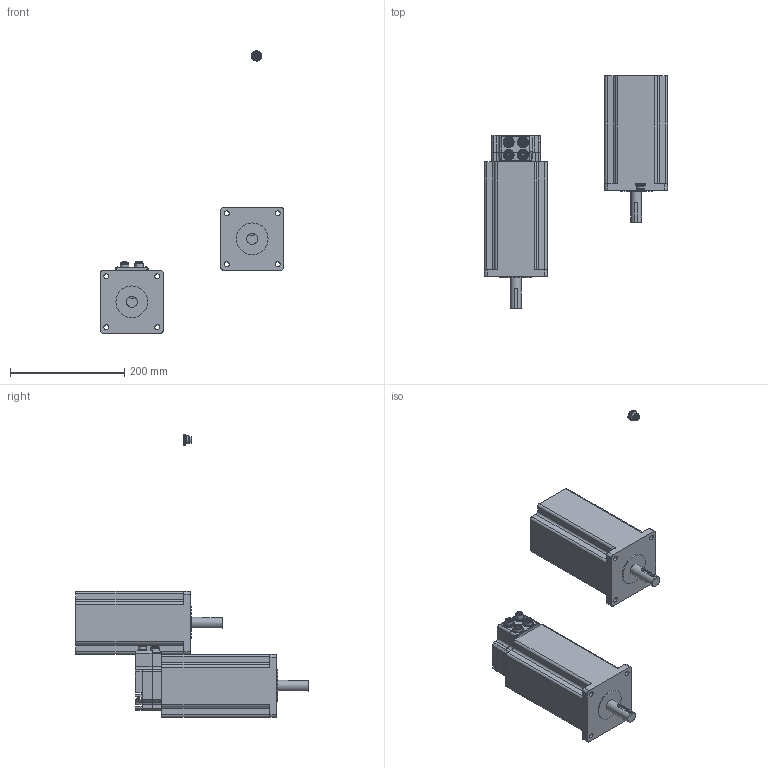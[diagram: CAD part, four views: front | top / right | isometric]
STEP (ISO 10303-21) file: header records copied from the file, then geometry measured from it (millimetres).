
FILE_DESCRIPTION( ( 'Unknown' ), '1' );
FILE_NAME( 'K:/JVL/MISxx/MIS43x/CAD drawings/Original/MIS432C22Q5H285.stp', 'Unknown', ( 'Unknown' ), ( 'Unknown' ), 'PSStep 11.0', 'Unknown', ' ' );
FILE_SCHEMA( ( 'AUTOMOTIVE_DESIGN { 1 0 10303 214 1 1 1 1 }' ) );
Length unit declared in the file: millimetre
Products named in the file (8): MIS34 house; Assem1; MM3831; MM3830; PWR 5 pin male; IO RS485 17 pin female; Ethernet 4 pin female; MIS432
Bounding box: 320.53 x 407.12 x 494.08 mm (x, y, z)
Volume: 5364857.6 mm3; surface area: 438569.4 mm2
Topology: 19 solids, 22 shells, 3032 faces, 7246 edges, 4442 vertices
Faces by surface type: plane 1322, cylinder 1206, sphere 327, cone 90, bspline 48, torus 21, extrusion 18
Full cylindrical faces by diameter (mm): 0.7 x51, 1 x47, 3 x15, 4.3 x12, 8.2 x3, 8.5 x8, 10.6 x3, 11.5 x8, 12 x3, 13.3 x5, 13.6 x3, 16 x3, 18 x11, 19 x14, 55.52 x2
Entity records: 37190 total; most frequent: CARTESIAN_POINT 5806, DIRECTION 5133, ORIENTED_EDGE 4582, EDGE_CURVE 2291, AXIS2_PLACEMENT_3D 1899, VERTEX_POINT 1438, VECTOR 1335, LINE 1329
